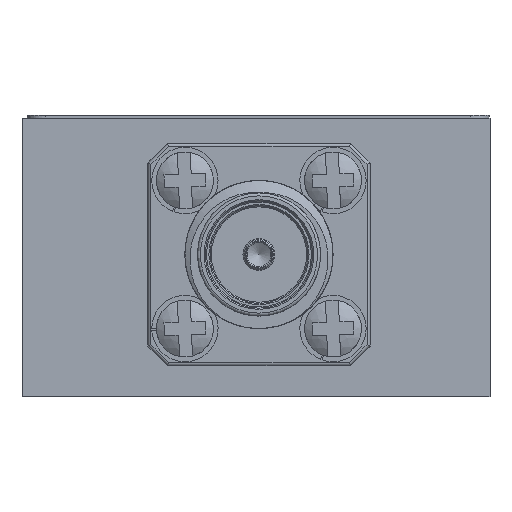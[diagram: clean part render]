
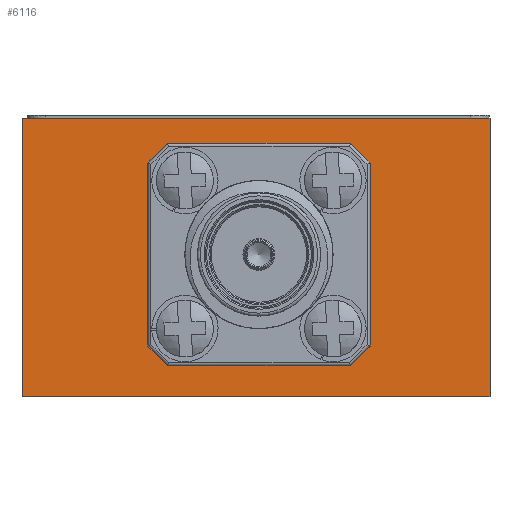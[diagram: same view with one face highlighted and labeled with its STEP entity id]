
A CAD part, left-side view. The second image highlights one B-rep face of the part: STEP entity #6116.
In plain terms, the highlighted planar face has unit normal (-1, 0, 0).
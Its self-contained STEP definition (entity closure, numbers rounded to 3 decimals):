
#1288 = DIRECTION ( 'NONE',  ( 0., 0., 1. ) ) ;
#1893 = CARTESIAN_POINT ( 'NONE',  ( -43.942, 10.033, 0. ) ) ;
#2220 = LINE ( 'NONE', #27848, #6594 ) ;
#3399 = FACE_OUTER_BOUND ( 'NONE', #26995, .T. ) ;
#3522 = CARTESIAN_POINT ( 'NONE',  ( -43.942, -10.033, -11.938 ) ) ;
#4973 = EDGE_CURVE ( 'NONE', #27550, #24758, #2220, .T. ) ;
#6116 = ADVANCED_FACE ( 'NONE', ( #3399 ), #18148, .T. ) ;
#6178 = VECTOR ( 'NONE', #1288, 1000. ) ;
#6457 = VECTOR ( 'NONE', #11918, 1000. ) ;
#6594 = VECTOR ( 'NONE', #23757, 1000. ) ;
#7731 = DIRECTION ( 'NONE',  ( 0., 0., 1. ) ) ;
#8149 = CARTESIAN_POINT ( 'NONE',  ( -43.942, -10.033, 0. ) ) ;
#9097 = CARTESIAN_POINT ( 'NONE',  ( -43.942, -10.033, -11.938 ) ) ;
#9409 = ORIENTED_EDGE ( 'NONE', *, *, #21182, .T. ) ;
#10187 = CARTESIAN_POINT ( 'NONE',  ( -43.942, -10.033, -11.938 ) ) ;
#11727 = AXIS2_PLACEMENT_3D ( 'NONE', #14156, #20455, #7731 ) ;
#11918 = DIRECTION ( 'NONE',  ( 0., -1., 0. ) ) ;
#12175 = ORIENTED_EDGE ( 'NONE', *, *, #15876, .T. ) ;
#14156 = CARTESIAN_POINT ( 'NONE',  ( -43.942, -10.033, -11.938 ) ) ;
#15148 = VERTEX_POINT ( 'NONE', #8149 ) ;
#15876 = EDGE_CURVE ( 'NONE', #27550, #17729, #16460, .T. ) ;
#16460 = LINE ( 'NONE', #10187, #6457 ) ;
#17729 = VERTEX_POINT ( 'NONE', #3522 ) ;
#18049 = CARTESIAN_POINT ( 'NONE',  ( -43.942, -10.033, 0. ) ) ;
#18077 = ORIENTED_EDGE ( 'NONE', *, *, #20131, .F. ) ;
#18148 = PLANE ( 'NONE',  #11727 ) ;
#20131 = EDGE_CURVE ( 'NONE', #24758, #15148, #27217, .T. ) ;
#20455 = DIRECTION ( 'NONE',  ( -1., 0., 0. ) ) ;
#21182 = EDGE_CURVE ( 'NONE', #17729, #15148, #27056, .T. ) ;
#21436 = CARTESIAN_POINT ( 'NONE',  ( -43.942, 10.033, -11.938 ) ) ;
#23757 = DIRECTION ( 'NONE',  ( 0., 0., 1. ) ) ;
#24758 = VERTEX_POINT ( 'NONE', #1893 ) ;
#25111 = DIRECTION ( 'NONE',  ( 0., -1., 0. ) ) ;
#26341 = VECTOR ( 'NONE', #25111, 1000. ) ;
#26995 = EDGE_LOOP ( 'NONE', ( #18077, #28068, #12175, #9409 ) ) ;
#27056 = LINE ( 'NONE', #9097, #6178 ) ;
#27217 = LINE ( 'NONE', #18049, #26341 ) ;
#27550 = VERTEX_POINT ( 'NONE', #21436 ) ;
#27848 = CARTESIAN_POINT ( 'NONE',  ( -43.942, 10.033, -11.938 ) ) ;
#28068 = ORIENTED_EDGE ( 'NONE', *, *, #4973, .F. ) ;
